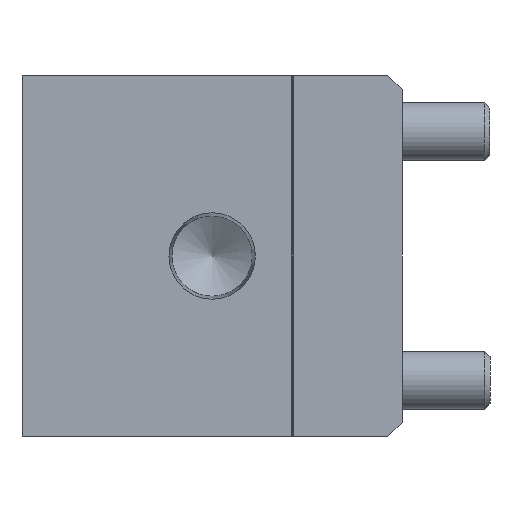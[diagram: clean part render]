
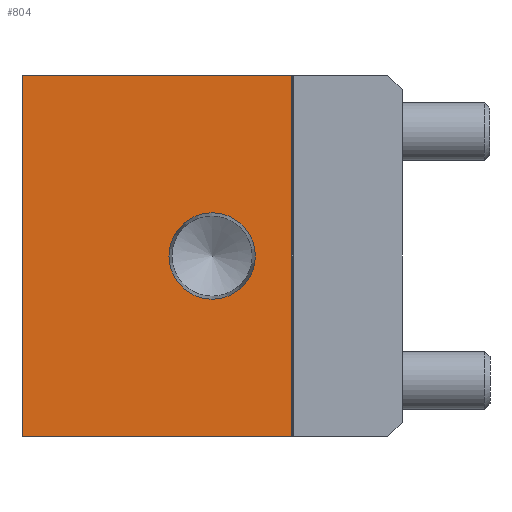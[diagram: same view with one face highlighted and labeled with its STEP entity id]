
A CAD part, left-side view. The second image highlights one B-rep face of the part: STEP entity #804.
In plain terms, the highlighted planar face has unit normal (-1, 0, 0).
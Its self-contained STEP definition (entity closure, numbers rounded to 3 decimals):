
#804 = ADVANCED_FACE( '', ( #1748, #1749 ), #1750, .F. );
#1748 = FACE_BOUND( '', #2853, .T. );
#1749 = FACE_OUTER_BOUND( '', #2854, .T. );
#1750 = PLANE( '', #2855 );
#2853 = EDGE_LOOP( '', ( #4678 ) );
#2854 = EDGE_LOOP( '', ( #4679, #4680, #4681, #4682 ) );
#2855 = AXIS2_PLACEMENT_3D( '', #4683, #4684, #4685 );
#4678 = ORIENTED_EDGE( '', *, *, #5937, .T. );
#4679 = ORIENTED_EDGE( '', *, *, #6491, .F. );
#4680 = ORIENTED_EDGE( '', *, *, #6088, .F. );
#4681 = ORIENTED_EDGE( '', *, *, #6492, .T. );
#4682 = ORIENTED_EDGE( '', *, *, #6284, .T. );
#4683 = CARTESIAN_POINT( '', ( 0., 52., 24.75 ) );
#4684 = DIRECTION( '', ( 1., 0., 0. ) );
#4685 = DIRECTION( '', ( 0., 0., -1. ) );
#5937 = EDGE_CURVE( '', #6935, #6935, #6936, .T. );
#6088 = EDGE_CURVE( '', #7186, #7188, #7189, .T. );
#6284 = EDGE_CURVE( '', #7484, #7486, #7488, .T. );
#6491 = EDGE_CURVE( '', #7188, #7486, #7774, .T. );
#6492 = EDGE_CURVE( '', #7186, #7484, #7775, .T. );
#6935 = VERTEX_POINT( '', #8292 );
#6936 = CIRCLE( '', #8293, 5.91 );
#7186 = VERTEX_POINT( '', #8616 );
#7188 = VERTEX_POINT( '', #8619 );
#7189 = LINE( '', #8620, #8621 );
#7484 = VERTEX_POINT( '', #9021 );
#7486 = VERTEX_POINT( '', #9024 );
#7488 = LINE( '', #9027, #9028 );
#7774 = LINE( '', #9414, #9415 );
#7775 = LINE( '', #9416, #9417 );
#8292 = CARTESIAN_POINT( '', ( 0., 26., -5.91 ) );
#8293 = AXIS2_PLACEMENT_3D( '', #9907, #9908, #9909 );
#8616 = CARTESIAN_POINT( '', ( 0., 52., 24.75 ) );
#8619 = CARTESIAN_POINT( '', ( 0., 15.1, 24.75 ) );
#8620 = CARTESIAN_POINT( '', ( 0., 52., 24.75 ) );
#8621 = VECTOR( '', #10098, 1000. );
#9021 = CARTESIAN_POINT( '', ( 0., 52., -24.75 ) );
#9024 = CARTESIAN_POINT( '', ( 0., 15.1, -24.75 ) );
#9027 = CARTESIAN_POINT( '', ( 0., 52., -24.75 ) );
#9028 = VECTOR( '', #10314, 1000. );
#9414 = CARTESIAN_POINT( '', ( 0., 15.1, 24.75 ) );
#9415 = VECTOR( '', #10550, 1000. );
#9416 = CARTESIAN_POINT( '', ( 0., 52., 24.75 ) );
#9417 = VECTOR( '', #10551, 1000. );
#9907 = CARTESIAN_POINT( '', ( 0., 26., 0. ) );
#9908 = DIRECTION( '', ( 1., 0., 0. ) );
#9909 = DIRECTION( '', ( 0., 0., -1. ) );
#10098 = DIRECTION( '', ( 0., -1., 0. ) );
#10314 = DIRECTION( '', ( 0., -1., 0. ) );
#10550 = DIRECTION( '', ( 0., 0., -1. ) );
#10551 = DIRECTION( '', ( 0., 0., -1. ) );
